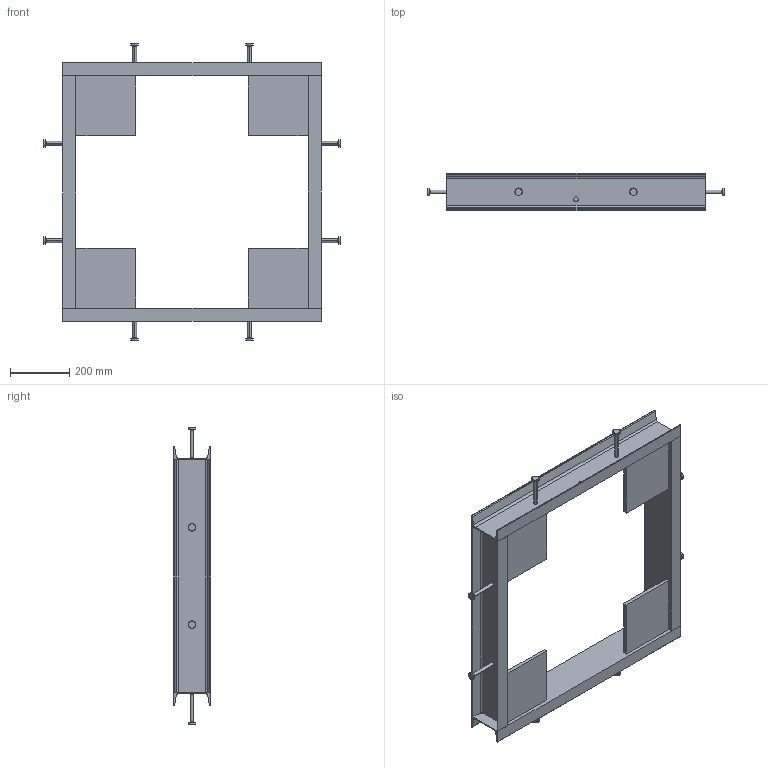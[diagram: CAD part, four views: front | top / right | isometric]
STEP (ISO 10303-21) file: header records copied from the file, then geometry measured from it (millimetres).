
FILE_DESCRIPTION (( 'STEP AP214' ), '1' );
FILE_NAME ('918-PFC-3030-5K-CS.STEP', '2024-05-31T16:20:56', ( '' ), ( '' ), 'SwSTEP 2.0', 'SolidWorks 2023', '' );
FILE_SCHEMA (( 'AUTOMOTIVE_DESIGN' ));
Length unit declared in the file: inch
Products named in the file (7): PL.25 x 1.5625 x 3; 100-32711; C5 x 6.7 x 31_Default<As Machined>; C5 x 6.7 x 34.5_Default<As Machined>; 918-PFC-3030-5K-CS; 100-97855_Default<As Machined>; PL.5 x 8 x 8
Assembly tree (24 placements, depth 2):
  918-PFC-3030-5K-CS
    C5 x 6.7 x 34.5_Default<As Machined>
    100-97855_Default<As Machined>
    C5 x 6.7 x 31_Default<As Machined>  x2
    100-32711  x8
    PL.5 x 8 x 8  x4
    PL.25 x 1.5625 x 3  x8
Bounding box: 1006.6 x 127 x 1006.6 mm (x, y, z)
Volume: 6604564.1 mm3; surface area: 1829241 mm2
Topology: 24 solids, 24 shells, 250 faces, 518 edges, 324 vertices
Faces by surface type: plane 136, cylinder 50, cone 48, torus 16
Entity records: 2416 total; most frequent: DIRECTION 408, CARTESIAN_POINT 372, ORIENTED_EDGE 332, EDGE_CURVE 166, AXIS2_PLACEMENT_3D 144, LINE 120, VECTOR 120, VERTEX_POINT 108
